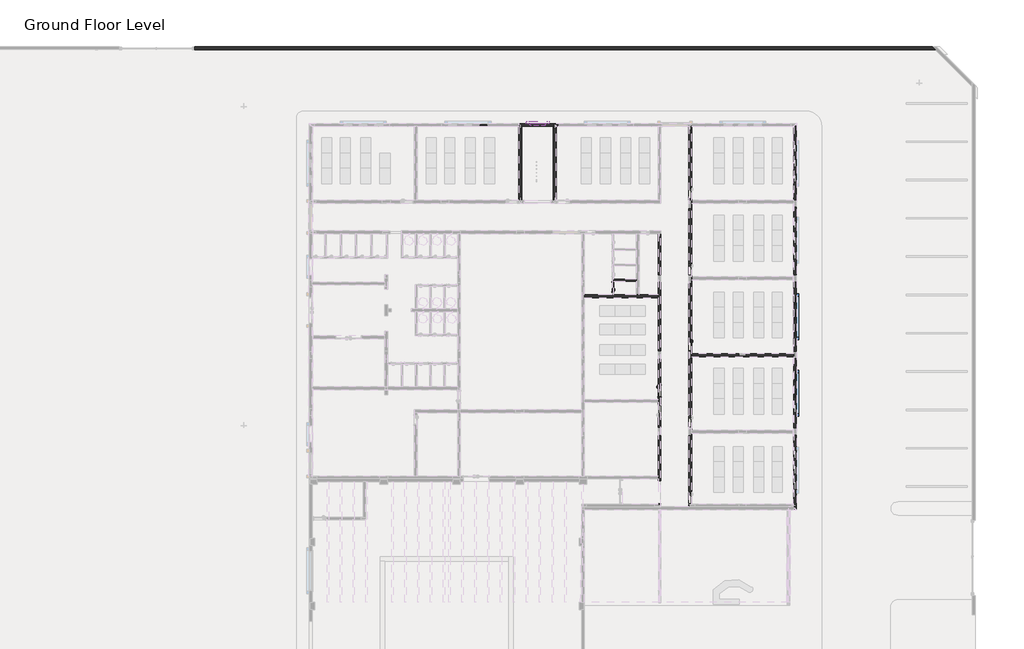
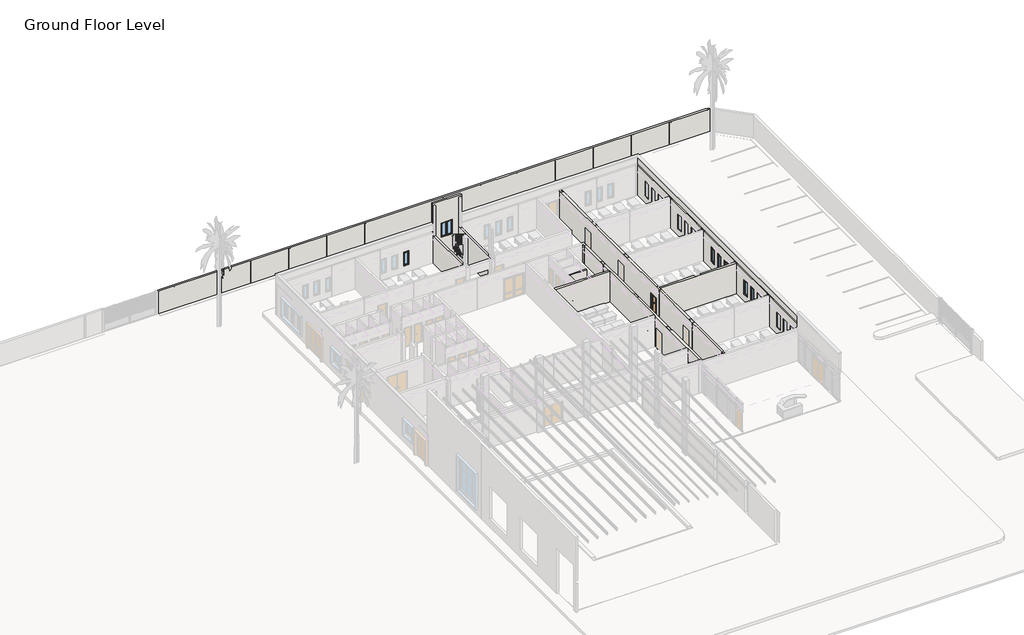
# One storey, part 9 of 23: 10 walls, 10 windows, 3 doors.
"""IFC4 building model written with IfcOpenShell, lengths in millimetres."""

from ifc_helpers import new_model, si_unit, frame, origin, place, context, project, spatial, polyline, outline, extrude, faceted_brep, transform, mapped, element, save
from components import int_single_flush_nz_700x_2100_e1d28701, int_single_flush_nz_900_x_2100_021ef152, int_single_flush_nz_900_x_2100_2a598139, awning_casement_double_w7_ecde4b56, window_batten_type_1_98129cd1, window_batten_type_1_65f01d97, window_single_shutter_w3_b236610e

model = new_model("IFC4")

# Units and contexts
model_context = context("Model", 3, world=origin())
ifc_project = project(units=[si_unit("LENGTHUNIT", "METRE", prefix="MILLI")], contexts=[model_context])

# Site, building, storey
site = spatial("IfcSite", under=ifc_project)
building = spatial("IfcBuilding", under=site)
storey = spatial("IfcBuildingStorey", under=building, Name="Ground Floor Level", Elevation=900.0)

# Doors
placement = place(None, origin())
int_single_flush_nz_700x_2100_shape = int_single_flush_nz_700x_2100_e1d28701(model_context)
element("IfcDoor", 1, ObjectType="Int Single-Flush (NZ) : 700x 2100", at=placement, inside=storey, context=model_context, shape_type="MappedRepresentation", body=[
    mapped(int_single_flush_nz_700x_2100_shape, transform((1702.7672395, 8941.2153534, 1000.0), x_axis=(0.0, 1.0, 0.0), y_axis=(-1.0, 0.0, 0.0), z_axis=(0.0, 0.0, 1.0))),
])
int_single_flush_nz_900_x_2100_shape = int_single_flush_nz_900_x_2100_021ef152(model_context)
element("IfcDoor", 2, ObjectType="Int Single-Flush (NZ) : 900 x 2100", at=placement, inside=storey, context=model_context, shape_type="MappedRepresentation", body=[
    mapped(int_single_flush_nz_900_x_2100_shape, transform((7752.7672395, 4239.2153534, 1000.0), x_axis=(0.0, -1.0, 0.0), y_axis=(1.0, 0.0, 0.0), z_axis=(0.0, 0.0, 1.0))),
])
int_single_flush_nz_900_x_2100_2_shape = int_single_flush_nz_900_x_2100_2a598139(model_context)
element("IfcDoor", 3, ObjectType="Int Single-Flush (NZ) : 900 x 2100", at=placement, inside=storey, context=model_context, shape_type="MappedRepresentation", body=[
    mapped(int_single_flush_nz_900_x_2100_2_shape, transform((5352.7672395, 649.2153534, 1000.0), x_axis=(0.0, -1.0, 0.0), y_axis=(1.0, 0.0, 0.0), z_axis=(0.0, 0.0, 1.0))),
])

# Walls
element("IfcWall", 4, ObjectType="Exterior - Blockwork 200 Stairs", at=placement, inside=storey, context=model_context, shape_type="Brep", body=[
    faceted_brep([(-5437.2327605, 21435.2153534, 4100.0), (-5437.2327605, 15655.2153534, 4100.0), (-5437.2327605, 15655.2153534, 1000.0), (-5437.2327605, 21435.2153534, 1000.0), (-5657.2327605, 15655.2153534, 4100.0), (-5657.2327605, 21435.2153534, 4100.0), (-5657.2327605, 21435.2153534, 1000.0), (-5657.2327605, 15655.2153534, 1000.0), (-5447.2327605, 15945.2153534, 900.0), (-5647.2327605, 15945.2153534, 900.0), (-5647.2327605, 21245.2153534, 900.0), (-5447.2327605, 21245.2153534, 900.0), (-5447.2327605, 21435.2153534, 4100.0), (-5447.2327605, 21245.2153534, 4100.0), (-5647.2327605, 21245.2153534, 4100.0), (-5647.2327605, 21435.2153534, 4100.0), (-5647.2327605, 15655.2153534, 4100.0), (-5647.2327605, 15945.2153534, 4100.0), (-5447.2327605, 15945.2153534, 4100.0), (-5447.2327605, 15655.2153534, 4100.0), (-5647.2327605, 15655.2153534, 1000.0), (-5647.2327605, 15945.2153534, 1000.0), (-5447.2327605, 15945.2153534, 1000.0), (-5447.2327605, 15655.2153534, 1000.0), (-5447.2327605, 21435.2153534, 1000.0), (-5447.2327605, 21245.2153534, 1000.0), (-5647.2327605, 21245.2153534, 1000.0), (-5647.2327605, 21435.2153534, 1000.0)], [[[0, 1, 2, 3]], [[4, 5, 6, 7]], [[8, 9, 10, 11]], [[1, 0, 12, 13, 14, 15, 5, 4, 16, 17, 18, 19]], [[20, 21, 17, 16]], [[9, 8, 22, 18, 17, 21]], [[19, 18, 22, 23]], [[13, 12, 24, 25]], [[11, 10, 26, 14, 13, 25]], [[26, 27, 15, 14]], [[27, 6, 5, 15]], [[12, 0, 3, 24]], [[16, 4, 7, 20]], [[1, 19, 23, 2]], [[26, 21, 20, 7, 6, 27]], [[21, 26, 10, 9]], [[22, 25, 24, 3, 2, 23]], [[25, 22, 8, 11]]]),
])
element("IfcWall", 5, ObjectType="Exterior - Blockwork 200 Stairs", at=placement, inside=storey, context=model_context, shape_type="Brep", body=[
    faceted_brep([(-2737.2327605, 15655.2153534, 900.0), (-2737.2327605, 21435.2153534, 900.0), (-2737.2327605, 21435.2153534, 4100.0), (-2737.2327605, 15655.2153534, 4100.0), (-2957.2327605, 21435.2153534, 900.0), (-2957.2327605, 15655.2153534, 900.0), (-2957.2327605, 15655.2153534, 4100.0), (-2957.2327605, 21435.2153534, 4100.0), (-2747.2327605, 15655.2153534, 900.0), (-2747.2327605, 15945.2153534, 900.0), (-2947.2327605, 15945.2153534, 900.0), (-2947.2327605, 15655.2153534, 900.0), (-2947.2327605, 21435.2153534, 900.0), (-2947.2327605, 21245.2153534, 900.0), (-2747.2327605, 21245.2153534, 900.0), (-2747.2327605, 21435.2153534, 900.0), (-2747.2327605, 21435.2153534, 4100.0), (-2747.2327605, 21245.2153534, 4100.0), (-2947.2327605, 21245.2153534, 4100.0), (-2947.2327605, 21435.2153534, 4100.0), (-2947.2327605, 15655.2153534, 4100.0), (-2947.2327605, 15945.2153534, 4100.0), (-2747.2327605, 15945.2153534, 4100.0), (-2747.2327605, 15655.2153534, 4100.0), (-2747.2327605, 21435.2153534, 1000.0), (-2947.2327605, 21435.2153534, 1000.0), (-2747.2327605, 15655.2153534, 1000.0), (-2947.2327605, 15655.2153534, 1000.0)], [[[0, 1, 2, 3]], [[4, 5, 6, 7]], [[1, 0, 8, 9, 10, 11, 5, 4, 12, 13, 14, 15]], [[3, 2, 16, 17, 18, 19, 7, 6, 20, 21, 22, 23]], [[2, 1, 15, 24, 16]], [[4, 7, 19, 25, 12]], [[0, 3, 23, 26, 8]], [[6, 5, 11, 27, 20]], [[10, 21, 20, 27, 11]], [[21, 10, 9, 22]], [[22, 9, 8, 26, 23]], [[14, 17, 16, 24, 15]], [[17, 14, 13, 18]], [[18, 13, 12, 25, 19]]]),
])
element("IfcWall", 6, ObjectType="Exterior - Blockwork 200mm", at=placement, inside=storey, context=model_context, shape_type="Brep", body=[
    faceted_brep([(15842.7672395, -8344.7846466, 5302.8002678), (15842.7672395, 21435.2153534, 5302.8002678), (15842.7672395, 21435.2153534, 4550.0), (15842.7672395, -8344.7846466, 4550.0), (15842.7672395, -8334.7846466, 4400.0), (15842.7672395, -8334.7846466, 900.0), (15842.7672395, -8344.7846466, 900.0), (15842.7672395, -8354.7846466, 900.0), (15842.7672395, -8354.7846466, 4400.0), (15842.7672395, -8344.7846466, 4400.0), (15842.7672395, -8134.7846466, 4400.0), (15842.7672395, -8124.7846466, 4400.0), (15842.7672395, -2564.7846466, 4400.0), (15842.7672395, -2344.7846466, 4400.0), (15842.7672395, 3425.2153534, 4400.0), (15842.7672395, 3645.2153534, 4400.0), (15842.7672395, 9435.2153534, 4400.0), (15842.7672395, 9655.2153534, 4400.0), (15842.7672395, 15435.2153534, 4400.0), (15842.7672395, 15655.2153534, 4400.0), (15842.7672395, 21435.2153534, 4400.0), (15842.7672395, 21435.2153534, 1000.0), (15842.7672395, 15655.2153534, 1000.0), (15842.7672395, 15655.2153534, 900.0), (15842.7672395, 15445.2153534, 900.0), (15842.7672395, 15445.2153534, 1000.0), (15842.7672395, 15435.2153534, 1000.0), (15842.7672395, 9655.2153534, 1000.0), (15842.7672395, 9655.2153534, 900.0), (15842.7672395, 9445.2153534, 900.0), (15842.7672395, 9445.2153534, 1000.0), (15842.7672395, 9435.2153534, 1000.0), (15842.7672395, 3645.2153534, 1000.0), (15842.7672395, 3645.2153534, 900.0), (15842.7672395, 3435.2153534, 900.0), (15842.7672395, 3435.2153534, 1000.0), (15842.7672395, 3425.2153534, 1000.0), (15842.7672395, -2344.7846466, 1000.0), (15842.7672395, -2344.7846466, 900.0), (15842.7672395, -2554.7846466, 900.0), (15842.7672395, -2554.7846466, 1000.0), (15842.7672395, -2564.7846466, 1000.0), (15842.7672395, -8124.7846466, 1000.0), (15842.7672395, -8134.7846466, 1000.0), (15842.7672395, 20035.2153534, 1800.0), (15842.7672395, 20035.2153534, 3400.0), (15842.7672395, 19435.2153534, 3400.0), (15842.7672395, 19435.2153534, 1800.0), (15842.7672395, 18855.2153534, 1800.0), (15842.7672395, 18855.2153534, 3400.0), (15842.7672395, 18255.2153534, 3400.0), (15842.7672395, 18255.2153534, 1800.0), (15842.7672395, 17655.2153534, 1800.0), (15842.7672395, 17655.2153534, 3400.0), (15842.7672395, 17055.2153534, 3400.0), (15842.7672395, 17055.2153534, 1800.0), (15842.7672395, 14055.2153534, 1800.0), (15842.7672395, 14055.2153534, 3400.0), (15842.7672395, 13455.2153534, 3400.0), (15842.7672395, 13455.2153534, 1800.0), (15842.7672395, 12835.2153534, 1800.0), (15842.7672395, 12835.2153534, 3400.0), (15842.7672395, 12235.2153534, 3400.0), (15842.7672395, 12235.2153534, 1800.0), (15842.7672395, 11635.2153534, 1800.0), (15842.7672395, 11635.2153534, 3400.0), (15842.7672395, 11035.2153534, 3400.0), (15842.7672395, 11035.2153534, 1800.0), (15842.7672395, 8035.2153534, 1800.0), (15842.7672395, 8035.2153534, 3400.0), (15842.7672395, 7435.2153534, 3400.0), (15842.7672395, 7435.2153534, 1800.0), (15842.7672395, 6855.2153534, 1800.0), (15842.7672395, 6855.2153534, 3400.0), (15842.7672395, 6255.2153534, 3400.0), (15842.7672395, 6255.2153534, 1800.0), (15842.7672395, 5635.2153534, 1800.0), (15842.7672395, 5635.2153534, 3400.0), (15842.7672395, 5035.2153534, 3400.0), (15842.7672395, 5035.2153534, 1800.0), (15842.7672395, 2045.2153534, 1800.0), (15842.7672395, 2045.2153534, 3400.0), (15842.7672395, 1445.2153534, 3400.0), (15842.7672395, 1445.2153534, 1800.0), (15842.7672395, 845.2153534, 1800.0), (15842.7672395, 845.2153534, 3400.0), (15842.7672395, 245.2153534, 3400.0), (15842.7672395, 245.2153534, 1800.0), (15842.7672395, -354.7846466, 1800.0), (15842.7672395, -354.7846466, 3400.0), (15842.7672395, -954.7846466, 3400.0), (15842.7672395, -954.7846466, 1800.0), (15842.7672395, -3944.7846466, 1800.0), (15842.7672395, -3944.7846466, 3400.0), (15842.7672395, -4544.7846466, 3400.0), (15842.7672395, -4544.7846466, 1800.0), (15842.7672395, -5144.7846466, 1800.0), (15842.7672395, -5144.7846466, 3400.0), (15842.7672395, -5744.7846466, 3400.0), (15842.7672395, -5744.7846466, 1800.0), (15842.7672395, -6364.7846466, 1800.0), (15842.7672395, -6364.7846466, 3400.0), (15842.7672395, -6964.7846466, 3400.0), (15842.7672395, -6964.7846466, 1800.0), (15842.7672395, -8564.7846466, 900.0), (15842.7672395, -8564.7846466, 4400.0), (15842.7672395, -8554.7846466, 4400.0), (15842.7672395, -8554.7846466, 900.0), (16062.7672395, -8564.7846466, 900.0), (16062.7672395, 21435.2153534, 900.0), (16062.7672395, 21435.2153534, 5302.8002678), (16062.7672395, -8344.7846466, 5302.8002678), (16062.7672395, -8344.7846466, 4400.0), (16062.7672395, -8564.7846466, 4400.0), (16062.7672395, 20035.2153534, 3400.0), (16062.7672395, 20035.2153534, 1800.0), (16062.7672395, 19435.2153534, 1800.0), (16062.7672395, 19435.2153534, 3400.0), (16062.7672395, 18855.2153534, 3400.0), (16062.7672395, 18855.2153534, 1800.0), (16062.7672395, 18255.2153534, 1800.0), (16062.7672395, 18255.2153534, 3400.0), (16062.7672395, 17655.2153534, 3400.0), (16062.7672395, 17655.2153534, 1800.0), (16062.7672395, 17055.2153534, 1800.0), (16062.7672395, 17055.2153534, 3400.0), (16062.7672395, 14055.2153534, 3400.0), (16062.7672395, 14055.2153534, 1800.0), (16062.7672395, 13455.2153534, 1800.0), (16062.7672395, 13455.2153534, 3400.0), (16062.7672395, 12835.2153534, 3400.0), (16062.7672395, 12835.2153534, 1800.0), (16062.7672395, 12235.2153534, 1800.0), (16062.7672395, 12235.2153534, 3400.0), (16062.7672395, 11635.2153534, 3400.0), (16062.7672395, 11635.2153534, 1800.0), (16062.7672395, 11035.2153534, 1800.0), (16062.7672395, 11035.2153534, 3400.0), (16062.7672395, 8035.2153534, 3400.0), (16062.7672395, 8035.2153534, 1800.0), (16062.7672395, 7435.2153534, 1800.0), (16062.7672395, 7435.2153534, 3400.0), (16062.7672395, 6855.2153534, 3400.0), (16062.7672395, 6855.2153534, 1800.0), (16062.7672395, 6255.2153534, 1800.0), (16062.7672395, 6255.2153534, 3400.0), (16062.7672395, 5635.2153534, 3400.0), (16062.7672395, 5635.2153534, 1800.0), (16062.7672395, 5035.2153534, 1800.0), (16062.7672395, 5035.2153534, 3400.0), (16062.7672395, 2045.2153534, 3400.0), (16062.7672395, 2045.2153534, 1800.0), (16062.7672395, 1445.2153534, 1800.0), (16062.7672395, 1445.2153534, 3400.0), (16062.7672395, 845.2153534, 3400.0), (16062.7672395, 845.2153534, 1800.0), (16062.7672395, 245.2153534, 1800.0), (16062.7672395, 245.2153534, 3400.0), (16062.7672395, -354.7846466, 3400.0), (16062.7672395, -354.7846466, 1800.0), (16062.7672395, -954.7846466, 1800.0), (16062.7672395, -954.7846466, 3400.0), (16062.7672395, -3944.7846466, 3400.0), (16062.7672395, -3944.7846466, 1800.0), (16062.7672395, -4544.7846466, 1800.0), (16062.7672395, -4544.7846466, 3400.0), (16062.7672395, -5144.7846466, 3400.0), (16062.7672395, -5144.7846466, 1800.0), (16062.7672395, -5744.7846466, 1800.0), (16062.7672395, -5744.7846466, 3400.0), (16062.7672395, -6364.7846466, 3400.0), (16062.7672395, -6364.7846466, 1800.0), (16062.7672395, -6964.7846466, 1800.0), (16062.7672395, -6964.7846466, 3400.0), (15852.7672395, 21435.2153534, 900.0), (15852.7672395, 21435.2153534, 1000.0), (16052.7672395, 21435.2153534, 4400.0), (16052.7672395, 21435.2153534, 4550.0), (16052.7672395, 15145.2153534, 900.0), (16052.7672395, 15145.2153534, 4400.0), (16052.7672395, 9795.2153534, 4400.0), (16052.7672395, 9795.2153534, 900.0), (16052.7672395, 9295.2153534, 900.0), (16052.7672395, 9295.2153534, 4400.0), (16052.7672395, 3795.2153534, 4400.0), (16052.7672395, 3795.2153534, 900.0), (16052.7672395, 3295.2153534, 900.0), (16052.7672395, 3295.2153534, 4400.0), (16052.7672395, -2204.7846466, 4400.0), (16052.7672395, -2204.7846466, 900.0), (16052.7672395, -2704.7846466, 900.0), (16052.7672395, -2704.7846466, 4400.0), (16052.7672395, -8134.7846466, 4400.0), (16052.7672395, -8134.7846466, 900.0), (16052.7672395, -8334.7846466, 900.0), (16052.7672395, -8334.7846466, 4400.0), (16052.7672395, -8344.7846466, 4400.0), (16052.7672395, -8344.7846466, 4550.0), (16052.7672395, 15645.2153534, 4400.0), (16052.7672395, 15645.2153534, 900.0), (15852.7672395, 15145.2153534, 900.0), (15852.7672395, 15145.2153534, 1000.0), (15852.7672395, 15145.2153534, 4400.0), (15852.7672395, 15645.2153534, 900.0), (15852.7672395, 15645.2153534, 4400.0), (15852.7672395, 15445.2153534, 1000.0), (15852.7672395, 15445.2153534, 900.0), (15852.7672395, 9295.2153534, 900.0), (15852.7672395, 9295.2153534, 1000.0), (15852.7672395, 9295.2153534, 4400.0), (15852.7672395, 9795.2153534, 4400.0), (15852.7672395, 9445.2153534, 1000.0), (15852.7672395, 9445.2153534, 900.0), (15852.7672395, 9655.2153534, 900.0), (15852.7672395, 9655.2153534, 1000.0), (15852.7672395, 9795.2153534, 1000.0), (15852.7672395, 9795.2153534, 900.0), (15852.7672395, 3795.2153534, 4400.0), (15852.7672395, 3295.2153534, 4400.0), (15852.7672395, 3295.2153534, 1000.0), (15852.7672395, 3435.2153534, 1000.0), (15852.7672395, 3435.2153534, 900.0), (15852.7672395, 3645.2153534, 900.0), (15852.7672395, 3645.2153534, 1000.0), (15852.7672395, 3795.2153534, 1000.0), (15852.7672395, 3795.2153534, 900.0), (15852.7672395, 3295.2153534, 900.0), (15852.7672395, -2204.7846466, 4400.0), (15852.7672395, -2704.7846466, 4400.0), (15852.7672395, -2704.7846466, 1000.0), (15852.7672395, -2554.7846466, 1000.0), (15852.7672395, -2554.7846466, 900.0), (15852.7672395, -2344.7846466, 900.0), (15852.7672395, -2344.7846466, 1000.0), (15852.7672395, -2204.7846466, 1000.0), (15852.7672395, -2204.7846466, 900.0), (15852.7672395, -2704.7846466, 900.0), (15852.7672395, -8134.7846466, 1000.0), (15852.7672395, -8134.7846466, 900.0), (16052.7672395, -8354.7846466, 900.0), (16052.7672395, -8354.7846466, 4400.0), (16052.7672395, -8554.7846466, 900.0), (16052.7672395, -8554.7846466, 4400.0), (15852.7672395, 15655.2153534, 1000.0), (15852.7672395, 15655.2153534, 900.0)], [[[0, 1, 2, 3]], [[4, 5, 6, 7, 8, 9]], [[10, 11, 12, 13, 14, 15, 16, 17, 18, 19, 20, 21, 22, 23, 24, 25, 26, 27, 28, 29, 30, 31, 32, 33, 34, 35, 36, 37, 38, 39, 40, 41, 42, 43], [44, 45, 46, 47], [48, 49, 50, 51], [52, 53, 54, 55], [56, 57, 58, 59], [60, 61, 62, 63], [64, 65, 66, 67], [68, 69, 70, 71], [72, 73, 74, 75], [76, 77, 78, 79], [80, 81, 82, 83], [84, 85, 86, 87], [88, 89, 90, 91], [92, 93, 94, 95], [96, 97, 98, 99], [100, 101, 102, 103]], [[104, 105, 106, 107]], [[108, 109, 110, 111, 112, 113], [114, 115, 116, 117], [118, 119, 120, 121], [122, 123, 124, 125], [126, 127, 128, 129], [130, 131, 132, 133], [134, 135, 136, 137], [138, 139, 140, 141], [142, 143, 144, 145], [146, 147, 148, 149], [150, 151, 152, 153], [154, 155, 156, 157], [158, 159, 160, 161], [162, 163, 164, 165], [166, 167, 168, 169], [170, 171, 172, 173]], [[110, 109, 174, 175, 21, 20, 176, 177, 2, 1]], [[178, 179, 180, 181, 182, 183, 184, 185, 186, 187, 188, 189, 190, 191, 192, 193, 194, 195, 196, 197, 177, 176, 198, 199]], [[179, 178, 200, 201, 202]], [[203, 204, 202, 201, 205, 206]], [[204, 203, 199, 198]], [[183, 182, 207, 208, 209]], [[210, 209, 208, 211, 212, 213, 214, 215]], [[181, 180, 210, 215, 216]], [[217, 218, 219, 220, 221, 222, 223, 224]], [[185, 184, 217, 224, 225]], [[187, 186, 226, 219, 218]], [[227, 228, 229, 230, 231, 232, 233, 234]], [[189, 188, 227, 234, 235]], [[191, 190, 236, 229, 228]], [[193, 192, 10, 43, 237, 238]], [[195, 194, 5, 4]], [[239, 240, 8, 7]], [[240, 239, 241, 242]], [[45, 44, 115, 114]], [[46, 45, 114, 117]], [[47, 46, 117, 116]], [[44, 47, 116, 115]], [[49, 48, 119, 118]], [[50, 49, 118, 121]], [[51, 50, 121, 120]], [[48, 51, 120, 119]], [[53, 52, 123, 122]], [[54, 53, 122, 125]], [[55, 54, 125, 124]], [[52, 55, 124, 123]], [[57, 56, 127, 126]], [[58, 57, 126, 129]], [[59, 58, 129, 128]], [[56, 59, 128, 127]], [[61, 60, 131, 130]], [[62, 61, 130, 133]], [[63, 62, 133, 132]], [[60, 63, 132, 131]], [[65, 64, 135, 134]], [[66, 65, 134, 137]], [[67, 66, 137, 136]], [[64, 67, 136, 135]], [[69, 68, 139, 138]], [[70, 69, 138, 141]], [[71, 70, 141, 140]], [[68, 71, 140, 139]], [[73, 72, 143, 142]], [[74, 73, 142, 145]], [[75, 74, 145, 144]], [[72, 75, 144, 143]], [[77, 76, 147, 146]], [[78, 77, 146, 149]], [[79, 78, 149, 148]], [[76, 79, 148, 147]], [[81, 80, 151, 150]], [[82, 81, 150, 153]], [[83, 82, 153, 152]], [[80, 83, 152, 151]], [[85, 84, 155, 154]], [[86, 85, 154, 157]], [[87, 86, 157, 156]], [[84, 87, 156, 155]], [[89, 88, 159, 158]], [[90, 89, 158, 161]], [[91, 90, 161, 160]], [[88, 91, 160, 159]], [[93, 92, 163, 162]], [[94, 93, 162, 165]], [[95, 94, 165, 164]], [[92, 95, 164, 163]], [[97, 96, 167, 166]], [[98, 97, 166, 169]], [[99, 98, 169, 168]], [[96, 99, 168, 167]], [[101, 100, 171, 170]], [[102, 101, 170, 173]], [[103, 102, 173, 172]], [[100, 103, 172, 171]], [[177, 197, 3, 2]], [[105, 104, 108, 113]], [[112, 111, 0, 3, 197, 196]], [[242, 241, 107, 106]], [[229, 237, 43, 42, 41, 40, 230]], [[230, 40, 39, 231]], [[237, 229, 236, 238]], [[219, 234, 233, 37, 36, 35, 220]], [[220, 35, 34, 221]], [[234, 219, 226, 235]], [[37, 233, 232, 38]], [[208, 224, 223, 32, 31, 30, 211]], [[211, 30, 29, 212]], [[224, 208, 207, 225]], [[32, 223, 222, 33]], [[201, 215, 214, 27, 26, 25, 205]], [[205, 25, 24, 206]], [[215, 201, 200, 216]], [[27, 214, 213, 28]], [[175, 243, 22, 21]], [[244, 243, 175, 174]], [[243, 244, 23, 22]], [[109, 108, 104, 107, 241, 239, 7, 6, 5, 194, 193, 238, 236, 190, 189, 235, 226, 186, 185, 225, 207, 182, 181, 216, 200, 178, 199, 203, 206, 24, 23, 244, 174]], [[39, 38, 232, 231]], [[34, 33, 222, 221]], [[29, 28, 213, 212]], [[1, 0, 111, 110]], [[180, 179, 202, 204, 198, 176, 20, 19, 18, 17, 16, 15, 14, 13, 12, 11, 10, 192, 191, 228, 227, 188, 187, 218, 217, 184, 183, 209, 210]], [[195, 4, 9, 8, 240, 242, 106, 105, 113, 112, 196]]]),
])
element("IfcWall", 7, ObjectType="Exterior - Blockwork 200mm", at=placement, inside=storey, context=model_context, shape_type="Brep", body=[
    faceted_brep([(-2637.2327605, 21435.2153534, 900.0), (-2637.2327605, 21435.2153534, 7598.0296693), (-5657.2327605, 21435.2153534, 7598.0296693), (-5657.2327605, 21435.2153534, 4400.0), (-5657.2327605, 21435.2153534, 4100.0), (-5657.2327605, 21435.2153534, 1000.0), (-5657.2327605, 21435.2153534, 900.0), (-5647.2327605, 21435.2153534, 900.0), (-5647.2327605, 21435.2153534, 1000.0), (-5647.2327605, 21435.2153534, 4100.0), (-5647.2327605, 21435.2153534, 7400.0), (-5447.2327605, 21435.2153534, 7400.0), (-5447.2327605, 21435.2153534, 4100.0), (-5447.2327605, 21435.2153534, 1000.0), (-5437.2327605, 21435.2153534, 1000.0), (-2947.2327605, 21435.2153534, 1000.0), (-2947.2327605, 21435.2153534, 4100.0), (-2947.2327605, 21435.2153534, 7400.0), (-2747.2327605, 21435.2153534, 7400.0), (-2747.2327605, 21435.2153534, 4100.0), (-2747.2327605, 21435.2153534, 1000.0), (-2737.2327605, 21435.2153534, 1000.0), (-2737.2327605, 21435.2153534, 900.0), (-4797.2327605, 21435.2153534, 3552.9147636), (-4797.2327605, 21435.2153534, 5152.9147636), (-3597.2327605, 21435.2153534, 5152.9147636), (-3597.2327605, 21435.2153534, 3552.9147636), (-2637.2327605, 21655.2153534, 900.0), (-5657.2327605, 21655.2153534, 900.0), (-5657.2327605, 21655.2153534, 7598.0296693), (-2637.2327605, 21655.2153534, 7598.0296693), (-4797.2327605, 21655.2153534, 5152.9147636), (-4797.2327605, 21655.2153534, 3552.9147636), (-3597.2327605, 21655.2153534, 3552.9147636), (-3597.2327605, 21655.2153534, 5152.9147636), (-2737.2327605, 21445.2153534, 900.0), (-2747.2327605, 21445.2153534, 900.0), (-2747.2327605, 21645.2153534, 900.0), (-2947.2327605, 21645.2153534, 900.0), (-2947.2327605, 21445.2153534, 900.0), (-5447.2327605, 21445.2153534, 900.0), (-5447.2327605, 21645.2153534, 900.0), (-5647.2327605, 21645.2153534, 900.0), (-5447.2327605, 21645.2153534, 7400.0), (-5447.2327605, 21445.2153534, 1000.0), (-5647.2327605, 21645.2153534, 7400.0), (-2947.2327605, 21645.2153534, 7400.0), (-2947.2327605, 21445.2153534, 1000.0), (-2747.2327605, 21645.2153534, 7400.0), (-2747.2327605, 21445.2153534, 1000.0), (-2737.2327605, 21445.2153534, 1000.0)], [[[0, 1, 2, 3, 4, 5, 6, 7, 8, 9, 10, 11, 12, 13, 14, 15, 16, 17, 18, 19, 20, 21, 22], [23, 24, 25, 26]], [[27, 28, 29, 30], [31, 32, 33, 34]], [[28, 27, 0, 22, 35, 36, 37, 38, 39, 40, 41, 42, 7, 6]], [[1, 0, 27, 30]], [[2, 1, 30, 29]], [[11, 43, 41, 40, 44, 13, 12]], [[43, 45, 42, 41]], [[45, 43, 11, 10]], [[38, 46, 17, 16, 15, 47, 39]], [[48, 46, 38, 37]], [[46, 48, 18, 17]], [[48, 37, 36, 49, 20, 19, 18]], [[45, 10, 9, 8, 7, 42]], [[24, 23, 32, 31]], [[25, 24, 31, 34]], [[26, 25, 34, 33]], [[23, 26, 33, 32]], [[44, 47, 15, 14, 13]], [[50, 21, 20, 49]], [[35, 50, 49, 36]], [[47, 44, 40, 39]], [[2, 29, 28, 6, 5, 4, 3]], [[50, 35, 22, 21]]]),
])
element("IfcWall", 8, ObjectType="Exterior - Blockwork 200mm", at=placement, inside=storey, context=model_context, shape_type="SweptSolid", body=[
    extrude(outline(polyline([(26941.6402558, 27445.2153534), (-31047.2327605, 27445.2153534), (-31047.2327605, 27665.2153534), (26721.6402558, 27665.2153534), (26941.6402558, 27445.2153534)])), frame((0.0, 0.0, 600.0), z_axis=(0.0, 0.0, 1.0), x_axis=(1.0, 0.0, 0.0)), (0.0, 0.0, 1.0), 2500.0),
])
element("IfcWall", 9, ObjectType="Interior - Blockwork 200", at=placement, inside=storey, context=model_context, shape_type="Brep", body=[
    faceted_brep([(5242.7672395, 13035.2153534, 4400.0), (5242.7672395, 13035.2153534, 900.0), (5242.7672395, 8255.2153534, 900.0), (5242.7672395, 8045.2153534, 900.0), (5242.7672395, 8045.2153534, 1000.0), (5242.7672395, 8035.2153534, 1000.0), (5242.7672395, 1193.2153534, 1000.0), (5242.7672395, 1193.2153534, 3119.0), (5242.7672395, 255.2153534, 3119.0), (5242.7672395, 255.2153534, 1000.0), (5242.7672395, 55.2153534, 1000.0), (5242.7672395, 45.2153534, 1000.0), (5242.7672395, 45.2153534, 900.0), (5242.7672395, -154.7846466, 900.0), (5242.7672395, -154.7846466, 1000.0), (5242.7672395, -164.7846466, 1000.0), (5242.7672395, -364.7846466, 1000.0), (5242.7672395, -364.7846466, 3119.0), (5242.7672395, -1302.7846466, 3119.0), (5242.7672395, -1302.7846466, 1000.0), (5242.7672395, -5944.7846466, 1000.0), (5242.7672395, -5954.7846466, 1000.0), (5242.7672395, -5954.7846466, 900.0), (5242.7672395, -6154.7846466, 900.0), (5242.7672395, -6154.7846466, 910.0), (5242.7672395, -6164.7846466, 910.0), (5242.7672395, -6289.7846466, 910.0), (5242.7672395, -6289.7846466, 3000.0), (5242.7672395, -8089.7846466, 3000.0), (5242.7672395, -8089.7846466, 910.0), (5242.7672395, -8134.7846466, 910.0), (5242.7672395, -8134.7846466, 4400.0), (5242.7672395, -6164.7846466, 4400.0), (5242.7672395, -5944.7846466, 4400.0), (5242.7672395, -164.7846466, 4400.0), (5242.7672395, 55.2153534, 4400.0), (5242.7672395, 8035.2153534, 4400.0), (5242.7672395, 8255.2153534, 4400.0), (5462.7672395, 13035.2153534, 4400.0), (5462.7672395, -8134.7846466, 4400.0), (5462.7672395, -8134.7846466, 1000.0), (5462.7672395, -8089.7846466, 1000.0), (5462.7672395, -8089.7846466, 3000.0), (5462.7672395, -6289.7846466, 3000.0), (5462.7672395, -6289.7846466, 1000.0), (5462.7672395, -1302.7846466, 1000.0), (5462.7672395, -1302.7846466, 3119.0), (5462.7672395, -364.7846466, 3119.0), (5462.7672395, -364.7846466, 1000.0), (5462.7672395, 255.2153534, 1000.0), (5462.7672395, 255.2153534, 3119.0), (5462.7672395, 1193.2153534, 3119.0), (5462.7672395, 1193.2153534, 1000.0), (5462.7672395, 13035.2153534, 1000.0), (5252.7672395, 12745.2153534, 900.0), (5452.7672395, 12745.2153534, 900.0), (5452.7672395, 9795.2153534, 900.0), (5252.7672395, 9795.2153534, 900.0), (5252.7672395, 9295.2153534, 900.0), (5452.7672395, 9295.2153534, 900.0), (5452.7672395, 3845.2153534, 900.0), (5252.7672395, 3845.2153534, 900.0), (5252.7672395, 8045.2153534, 900.0), (5252.7672395, 13035.2153534, 900.0), (5252.7672395, 3245.2153534, 900.0), (5452.7672395, 3245.2153534, 900.0), (5452.7672395, -2154.7846466, 900.0), (5252.7672395, -2154.7846466, 900.0), (5252.7672395, -154.7846466, 900.0), (5252.7672395, 45.2153534, 900.0), (5252.7672395, -2754.7846466, 900.0), (5452.7672395, -2754.7846466, 900.0), (5452.7672395, -6154.7846466, 900.0), (5252.7672395, -5954.7846466, 900.0), (5252.7672395, 13035.2153534, 4400.0), (5452.7672395, 13035.2153534, 4400.0), (5452.7672395, 13035.2153534, 1000.0), (5452.7672395, 12745.2153534, 4400.0), (5452.7672395, 12745.2153534, 1000.0), (5252.7672395, 12745.2153534, 4400.0), (5452.7672395, 9295.2153534, 4400.0), (5452.7672395, 9795.2153534, 4400.0), (5452.7672395, 9795.2153534, 1000.0), (5452.7672395, 9295.2153534, 1000.0), (5252.7672395, 9295.2153534, 4400.0), (5252.7672395, 9795.2153534, 4400.0), (5252.7672395, 3845.2153534, 4400.0), (5252.7672395, 3245.2153534, 4400.0), (5252.7672395, 3245.2153534, 1000.0), (5252.7672395, 3845.2153534, 1000.0), (5452.7672395, 3845.2153534, 1000.0), (5452.7672395, 3845.2153534, 4400.0), (5452.7672395, 3245.2153534, 4400.0), (5452.7672395, 3245.2153534, 1000.0), (5252.7672395, -2154.7846466, 4400.0), (5252.7672395, -2754.7846466, 4400.0), (5252.7672395, -2754.7846466, 1000.0), (5252.7672395, -2154.7846466, 1000.0), (5452.7672395, -2154.7846466, 1000.0), (5452.7672395, -2154.7846466, 4400.0), (5452.7672395, -2754.7846466, 4400.0), (5452.7672395, -2754.7846466, 1000.0), (5452.7672395, -8134.7846466, 4400.0), (5452.7672395, -1302.7846466, 1000.0), (5452.7672395, -6289.7846466, 1000.0), (5452.7672395, 1193.2153534, 1000.0), (5452.7672395, -8134.7846466, 1000.0), (5452.7672395, -8089.7846466, 1000.0), (5452.7672395, -364.7846466, 1000.0), (5452.7672395, 255.2153534, 1000.0), (5452.7672395, -6289.7846466, 910.0), (5452.7672395, -6154.7846466, 910.0), (5452.7672395, -8134.7846466, 910.0), (5452.7672395, -8089.7846466, 910.0), (5252.7672395, 8045.2153534, 1000.0), (5252.7672395, 1193.2153534, 1000.0), (5252.7672395, 45.2153534, 1000.0), (5252.7672395, 255.2153534, 1000.0), (5252.7672395, -154.7846466, 1000.0), (5252.7672395, -364.7846466, 1000.0), (5252.7672395, -5954.7846466, 1000.0), (5252.7672395, -1302.7846466, 1000.0)], [[[0, 1, 2, 3, 4, 5, 6, 7, 8, 9, 10, 11, 12, 13, 14, 15, 16, 17, 18, 19, 20, 21, 22, 23, 24, 25, 26, 27, 28, 29, 30, 31, 32, 33, 34, 35, 36, 37]], [[38, 39, 40, 41, 42, 43, 44, 45, 46, 47, 48, 49, 50, 51, 52, 53]], [[54, 55, 56, 57, 58, 59, 60, 61, 62, 3, 2, 1, 63]], [[64, 65, 66, 67, 68, 13, 12, 69]], [[70, 71, 72, 23, 22, 73]], [[1, 0, 74, 63]], [[75, 38, 53, 76]], [[77, 75, 76, 78]], [[54, 79, 77, 78, 55]], [[79, 54, 63, 74]], [[80, 81, 82, 83]], [[58, 84, 80, 83, 59]], [[84, 58, 57, 85]], [[85, 57, 56, 82, 81]], [[86, 87, 88, 89]], [[61, 60, 90, 91, 86, 89]], [[92, 91, 90, 93]], [[65, 64, 88, 87, 92, 93]], [[94, 95, 96, 97]], [[67, 66, 98, 99, 94, 97]], [[100, 99, 98, 101]], [[71, 70, 96, 95, 100, 101]], [[0, 37, 36, 35, 34, 33, 32, 31, 102, 39, 38, 75, 77, 79, 74], [95, 94, 99, 100], [87, 86, 91, 92], [81, 80, 84, 85]], [[101, 98, 103, 45, 44, 104]], [[82, 78, 76, 53, 52, 105, 93, 90, 83]], [[40, 106, 107, 41]], [[48, 108, 109, 49]], [[71, 101, 104, 110, 111, 72]], [[78, 82, 56, 55]], [[83, 90, 60, 59]], [[66, 65, 93, 105, 109, 108, 103, 98]], [[107, 106, 112, 113]], [[114, 89, 88, 115, 6, 5, 4]], [[116, 11, 10, 9, 117]], [[69, 116, 117, 115, 88, 64]], [[114, 62, 61, 89]], [[116, 69, 12, 11]], [[62, 114, 4, 3]], [[14, 118, 119, 16, 15]], [[96, 120, 21, 20, 19, 121, 97]], [[68, 118, 14, 13]], [[118, 68, 67, 97, 121, 119]], [[73, 120, 96, 70]], [[120, 73, 22, 21]], [[24, 111, 110, 26, 25]], [[30, 29, 113, 112]], [[111, 24, 23, 72]], [[39, 102, 31, 30, 112, 106, 40]], [[28, 42, 41, 107, 113, 29]], [[43, 27, 26, 110, 104, 44]], [[42, 28, 27, 43]], [[47, 17, 16, 119, 108, 48]], [[17, 47, 46, 18]], [[18, 46, 45, 103, 121, 19]], [[103, 108, 119, 121]], [[8, 50, 49, 109, 117, 9]], [[50, 8, 7, 51]], [[51, 7, 6, 115, 105, 52]], [[109, 105, 115, 117]]]),
])
element("IfcWall", 10, ObjectType="Interior - Blockwork 200", at=placement, inside=storey, context=model_context, shape_type="Brep", body=[
    faceted_brep([(5242.7672395, 8035.2153534, 4400.0), (-537.2327605, 8035.2153534, 4400.0), (-537.2327605, 8035.2153534, 1000.0), (5242.7672395, 8035.2153534, 1000.0), (5242.7672395, 8255.2153534, 4400.0), (5242.7672395, 8255.2153534, 900.0), (3762.7672395, 8255.2153534, 900.0), (3542.7672395, 8255.2153534, 900.0), (3542.7672395, 8255.2153534, 1000.0), (-537.2327605, 8255.2153534, 1000.0), (-537.2327605, 8255.2153534, 4400.0), (1642.7672395, 8255.2153534, 4400.0), (1762.7672395, 8255.2153534, 4400.0), (3542.7672395, 8255.2153534, 4400.0), (3762.7672395, 8255.2153534, 4400.0), (-537.2327605, 8245.2153534, 900.0), (3542.7672395, 8245.2153534, 900.0), (5242.7672395, 8045.2153534, 900.0), (-537.2327605, 8045.2153534, 900.0), (5242.7672395, 8045.2153534, 1000.0), (-537.2327605, 8245.2153534, 1000.0), (-537.2327605, 8045.2153534, 1000.0), (3542.7672395, 8245.2153534, 1000.0)], [[[0, 1, 2, 3]], [[4, 5, 6, 7, 8, 9, 10, 11, 12, 13, 14]], [[15, 16, 7, 6, 5, 17, 18]], [[5, 4, 0, 3, 19, 17]], [[1, 10, 9, 20, 15, 18, 21, 2]], [[1, 0, 4, 14, 13, 12, 11, 10]], [[22, 20, 9, 8]], [[22, 16, 15, 20]], [[21, 19, 3, 2]], [[19, 21, 18, 17]], [[16, 22, 8, 7]]]),
])
element("IfcWall", 11, ObjectType="Interior - Blockwork 200", at=placement, inside=storey, context=model_context, shape_type="Brep", body=[
    faceted_brep([(7642.7672395, -8344.7846466, 4400.0), (7642.7672395, 21435.2153534, 4400.0), (7642.7672395, 21435.2153534, 1000.0), (7642.7672395, 16693.2153534, 1000.0), (7642.7672395, 16693.2153534, 3119.0), (7642.7672395, 15755.2153534, 3119.0), (7642.7672395, 15755.2153534, 1000.0), (7642.7672395, 10693.2153534, 1000.0), (7642.7672395, 10693.2153534, 3119.0), (7642.7672395, 9755.2153534, 3119.0), (7642.7672395, 9755.2153534, 1000.0), (7642.7672395, 4783.2153534, 1000.0), (7642.7672395, 4783.2153534, 3119.0), (7642.7672395, 3845.2153534, 3119.0), (7642.7672395, 3845.2153534, 1000.0), (7642.7672395, -1206.7846466, 1000.0), (7642.7672395, -1206.7846466, 3119.0), (7642.7672395, -2144.7846466, 3119.0), (7642.7672395, -2144.7846466, 1000.0), (7642.7672395, -7186.7846466, 1000.0), (7642.7672395, -7186.7846466, 3119.0), (7642.7672395, -8124.7846466, 3119.0), (7642.7672395, -8124.7846466, 1000.0), (7642.7672395, -8344.7846466, 1000.0), (7862.7672395, -8334.7846466, 900.0), (7862.7672395, -8334.7846466, 4400.0), (7862.7672395, -8344.7846466, 4400.0), (7862.7672395, -8344.7846466, 900.0), (7862.7672395, -8134.7846466, 4400.0), (7862.7672395, -8134.7846466, 1000.0), (7862.7672395, -8124.7846466, 1000.0), (7862.7672395, -8124.7846466, 3119.0), (7862.7672395, -7186.7846466, 3119.0), (7862.7672395, -7186.7846466, 1000.0), (7862.7672395, -2564.7846466, 1000.0), (7862.7672395, -2554.7846466, 1000.0), (7862.7672395, -2554.7846466, 900.0), (7862.7672395, -2344.7846466, 900.0), (7862.7672395, -2344.7846466, 1000.0), (7862.7672395, -2144.7846466, 1000.0), (7862.7672395, -2144.7846466, 3119.0), (7862.7672395, -1206.7846466, 3119.0), (7862.7672395, -1206.7846466, 1000.0), (7862.7672395, 3425.2153534, 1000.0), (7862.7672395, 3435.2153534, 1000.0), (7862.7672395, 3435.2153534, 900.0), (7862.7672395, 3645.2153534, 900.0), (7862.7672395, 3645.2153534, 1000.0), (7862.7672395, 3845.2153534, 1000.0), (7862.7672395, 3845.2153534, 3119.0), (7862.7672395, 4783.2153534, 3119.0), (7862.7672395, 4783.2153534, 1000.0), (7862.7672395, 9435.2153534, 1000.0), (7862.7672395, 9445.2153534, 1000.0), (7862.7672395, 9445.2153534, 900.0), (7862.7672395, 9655.2153534, 900.0), (7862.7672395, 9655.2153534, 1000.0), (7862.7672395, 9755.2153534, 1000.0), (7862.7672395, 9755.2153534, 3119.0), (7862.7672395, 10693.2153534, 3119.0), (7862.7672395, 10693.2153534, 1000.0), (7862.7672395, 15435.2153534, 1000.0), (7862.7672395, 15445.2153534, 1000.0), (7862.7672395, 15445.2153534, 900.0), (7862.7672395, 15655.2153534, 900.0), (7862.7672395, 15655.2153534, 1000.0), (7862.7672395, 15755.2153534, 1000.0), (7862.7672395, 15755.2153534, 3119.0), (7862.7672395, 16693.2153534, 3119.0), (7862.7672395, 16693.2153534, 1000.0), (7862.7672395, 21435.2153534, 1000.0), (7862.7672395, 21435.2153534, 4400.0), (7862.7672395, 15655.2153534, 4400.0), (7862.7672395, 15435.2153534, 4400.0), (7862.7672395, 9655.2153534, 4400.0), (7862.7672395, 9435.2153534, 4400.0), (7862.7672395, 3645.2153534, 4400.0), (7862.7672395, 3425.2153534, 4400.0), (7862.7672395, -2344.7846466, 4400.0), (7862.7672395, -2564.7846466, 4400.0), (7862.7672395, -8124.7846466, 4400.0), (7652.7672395, 15045.2153534, 900.0), (7852.7672395, 15045.2153534, 900.0), (7852.7672395, 9745.2153534, 900.0), (7652.7672395, 9745.2153534, 900.0), (7852.7672395, 15645.2153534, 900.0), (7652.7672395, 15645.2153534, 900.0), (7652.7672395, 21145.2153534, 900.0), (7852.7672395, 21145.2153534, 900.0), (7852.7672395, 15655.2153534, 900.0), (7852.7672395, 15445.2153534, 900.0), (7652.7672395, 9145.2153534, 900.0), (7852.7672395, 9145.2153534, 900.0), (7852.7672395, 3845.2153534, 900.0), (7652.7672395, 3845.2153534, 900.0), (7652.7672395, 3245.2153534, 900.0), (7852.7672395, 3245.2153534, 900.0), (7852.7672395, -2154.7846466, 900.0), (7652.7672395, -2154.7846466, 900.0), (7652.7672395, -2754.7846466, 900.0), (7852.7672395, -2754.7846466, 900.0), (7852.7672395, -8134.7846466, 900.0), (7652.7672395, -8134.7846466, 900.0), (7652.7672395, -8334.7846466, 900.0), (7652.7672395, -8344.7846466, 900.0), (7852.7672395, -2554.7846466, 900.0), (7852.7672395, -2344.7846466, 900.0), (7852.7672395, 3435.2153534, 900.0), (7852.7672395, 3645.2153534, 900.0), (7852.7672395, 9445.2153534, 900.0), (7852.7672395, 9655.2153534, 900.0), (7652.7672395, 21435.2153534, 4400.0), (7652.7672395, 21435.2153534, 1000.0), (7852.7672395, 21435.2153534, 4400.0), (7852.7672395, 21435.2153534, 1000.0), (7852.7672395, 15645.2153534, 4400.0), (7852.7672395, 15445.2153534, 1000.0), (7852.7672395, 15045.2153534, 1000.0), (7852.7672395, 15045.2153534, 4400.0), (7652.7672395, 15045.2153534, 1000.0), (7652.7672395, 15045.2153534, 4400.0), (7652.7672395, 15645.2153534, 4400.0), (7652.7672395, 15645.2153534, 1000.0), (7852.7672395, 21145.2153534, 4400.0), (7852.7672395, 21145.2153534, 1000.0), (7652.7672395, 21145.2153534, 1000.0), (7652.7672395, 21145.2153534, 4400.0), (7652.7672395, 9745.2153534, 4400.0), (7652.7672395, 9145.2153534, 4400.0), (7652.7672395, 9145.2153534, 1000.0), (7652.7672395, 9745.2153534, 1000.0), (7852.7672395, 9745.2153534, 1000.0), (7852.7672395, 9745.2153534, 4400.0), (7852.7672395, 9145.2153534, 4400.0), (7852.7672395, 9655.2153534, 1000.0), (7852.7672395, 9445.2153534, 1000.0), (7852.7672395, 9145.2153534, 1000.0), (7652.7672395, 3845.2153534, 4400.0), (7652.7672395, 3245.2153534, 4400.0), (7652.7672395, 3245.2153534, 1000.0), (7652.7672395, 3845.2153534, 1000.0), (7652.7672395, 3845.2153534, 3119.0), (7852.7672395, 3845.2153534, 1000.0), (7652.7672395, 3845.2153534, 1000.0), (7852.7672395, 3845.2153534, 4400.0), (7852.7672395, 3845.2153534, 3119.0), (7852.7672395, 3245.2153534, 4400.0), (7852.7672395, 3845.2153534, 1000.0), (7852.7672395, 3645.2153534, 1000.0), (7852.7672395, 3435.2153534, 1000.0), (7852.7672395, 3245.2153534, 1000.0), (7652.7672395, -2154.7846466, 4400.0), (7652.7672395, -2754.7846466, 4400.0), (7652.7672395, -2754.7846466, 1000.0), (7652.7672395, -2154.7846466, 1000.0), (7852.7672395, -2154.7846466, 1000.0), (7852.7672395, -2154.7846466, 4400.0), (7852.7672395, -2754.7846466, 4400.0), (7852.7672395, -2344.7846466, 1000.0), (7852.7672395, -2554.7846466, 1000.0), (7852.7672395, -2754.7846466, 1000.0), (7652.7672395, -8134.7846466, 4400.0), (7652.7672395, -8134.7846466, 1000.0), (7852.7672395, -8134.7846466, 1000.0), (7652.7672395, -8334.7846466, 1000.0), (7652.7672395, -8334.7846466, 4400.0), (7652.7672395, -8344.7846466, 1000.0), (7852.7672395, -8124.7846466, 1000.0), (7852.7672395, -7186.7846466, 1000.0), (7852.7672395, -1206.7846466, 1000.0), (7852.7672395, -2144.7846466, 1000.0), (7852.7672395, 4783.2153534, 1000.0), (7852.7672395, 10693.2153534, 1000.0), (7852.7672395, 9755.2153534, 1000.0), (7852.7672395, 16693.2153534, 1000.0), (7852.7672395, 15655.2153534, 1000.0), (7852.7672395, 15755.2153534, 1000.0), (7652.7672395, 15755.2153534, 1000.0), (7652.7672395, 10693.2153534, 1000.0), (7652.7672395, 16693.2153534, 1000.0), (7652.7672395, 9755.2153534, 1000.0), (7652.7672395, 4783.2153534, 1000.0), (7652.7672395, -2144.7846466, 1000.0), (7652.7672395, -7186.7846466, 1000.0), (7652.7672395, -1206.7846466, 1000.0), (7652.7672395, -8124.7846466, 1000.0)], [[[0, 1, 2, 3, 4, 5, 6, 7, 8, 9, 10, 11, 12, 13, 14, 15, 16, 17, 18, 19, 20, 21, 22, 23]], [[24, 25, 26, 27]], [[28, 29, 30, 31, 32, 33, 34, 35, 36, 37, 38, 39, 40, 41, 42, 43, 44, 45, 46, 47, 48, 49, 50, 51, 52, 53, 54, 55, 56, 57, 58, 59, 60, 61, 62, 63, 64, 65, 66, 67, 68, 69, 70, 71, 72, 73, 74, 75, 76, 77, 78, 79, 80]], [[81, 82, 83, 84]], [[85, 86, 87, 88, 89, 64, 63, 90]], [[91, 92, 93, 94]], [[95, 96, 97, 98]], [[99, 100, 101, 102]], [[103, 24, 27, 104]], [[36, 105, 106, 37]], [[45, 107, 108, 46]], [[54, 109, 110, 55]], [[1, 111, 112, 2]], [[113, 71, 70, 114]], [[115, 85, 90, 116, 117, 118]], [[82, 81, 119, 120, 118, 117]], [[121, 120, 119, 122]], [[85, 115, 121, 122, 86]], [[123, 113, 114, 124]], [[88, 87, 125, 126, 123, 124]], [[111, 126, 125, 112]], [[127, 128, 129, 130]], [[84, 83, 131, 132, 127, 130]], [[133, 132, 131, 134, 110, 109, 135, 136]], [[92, 91, 129, 128, 133, 136]], [[137, 138, 139, 140, 141]], [[94, 93, 142, 143]], [[144, 137, 141, 145]], [[146, 144, 145, 147, 148, 108, 107, 149, 150]], [[96, 95, 139, 138, 146, 150]], [[151, 152, 153, 154]], [[98, 97, 155, 156, 151, 154]], [[157, 156, 155, 158, 106, 105, 159, 160]], [[100, 99, 153, 152, 157, 160]], [[28, 161, 162, 102, 101, 163, 29]], [[25, 24, 103, 164, 165]], [[161, 165, 164, 162]], [[27, 26, 0, 23, 166, 104]], [[1, 0, 26, 25, 165, 161, 28, 80, 79, 78, 77, 76, 75, 74, 73, 72, 71, 113, 123, 126, 111], [115, 118, 120, 121], [128, 127, 132, 133], [138, 137, 144, 146], [152, 151, 156, 157]], [[30, 29, 163, 167]], [[159, 35, 34, 33, 168, 160]], [[35, 159, 105, 36]], [[101, 100, 160, 168, 167, 163]], [[149, 44, 43, 42, 169, 150]], [[38, 158, 155, 170, 39]], [[44, 149, 107, 45]], [[158, 38, 37, 106]], [[97, 96, 150, 169, 170, 155]], [[135, 53, 52, 51, 171, 136]], [[47, 148, 147, 48]], [[53, 135, 109, 54]], [[148, 47, 46, 108]], [[93, 92, 136, 171, 142]], [[116, 62, 61, 60, 172, 117]], [[56, 134, 131, 173, 57]], [[62, 116, 90, 63]], [[134, 56, 55, 110]], [[83, 82, 117, 172, 173, 131]], [[70, 69, 174, 124, 114]], [[65, 175, 176, 66]], [[89, 175, 65, 64]], [[175, 89, 88, 124, 174, 176]], [[177, 122, 119, 178, 7, 6]], [[125, 179, 3, 2, 112]], [[180, 130, 129, 181, 11, 10]], [[182, 154, 153, 183, 19, 18]], [[139, 184, 15, 14, 140]], [[185, 162, 164, 166, 23, 22]], [[166, 164, 103, 104]], [[122, 177, 179, 125, 87, 86]], [[130, 180, 178, 119, 81, 84]], [[181, 129, 91, 94, 143]], [[154, 182, 184, 139, 95, 98]], [[162, 185, 183, 153, 99, 102]], [[6, 5, 67, 66, 176, 177]], [[4, 3, 179, 174, 69, 68]], [[176, 174, 179, 177]], [[10, 9, 58, 57, 173, 180]], [[8, 7, 178, 172, 60, 59]], [[173, 172, 178, 180]], [[14, 13, 141, 140]], [[49, 48, 147, 145]], [[12, 11, 181, 171, 51, 50]], [[143, 142, 171, 181]], [[18, 17, 40, 39, 170, 182]], [[16, 15, 184, 169, 42, 41]], [[170, 169, 184, 182]], [[22, 21, 31, 30, 167, 185]], [[20, 19, 183, 168, 33, 32]], [[167, 168, 183, 185]], [[4, 68, 67, 5]], [[8, 59, 58, 9]], [[12, 50, 49, 145, 141, 13]], [[16, 41, 40, 17]], [[20, 32, 31, 21]]]),
])
element("IfcWall", 12, ObjectType="Interior - Blockwork 200", at=placement, inside=storey, context=model_context, shape_type="Brep", body=[
    faceted_brep([(15842.7672395, 3645.2153534, 4400.0), (15842.7672395, 3645.2153534, 1000.0), (15842.7672395, 3645.2153534, 900.0), (12152.7672395, 3645.2153534, 900.0), (12152.7672395, 3645.2153534, 4400.0), (7862.7672395, 3645.2153534, 900.0), (7862.7672395, 3645.2153534, 1000.0), (7862.7672395, 3645.2153534, 4400.0), (11552.7672395, 3645.2153534, 4400.0), (11552.7672395, 3645.2153534, 900.0), (15842.7672395, 3425.2153534, 4400.0), (7862.7672395, 3425.2153534, 4400.0), (7862.7672395, 3425.2153534, 1000.0), (15842.7672395, 3425.2153534, 1000.0), (15842.7672395, 3435.2153534, 900.0), (7862.7672395, 3435.2153534, 900.0), (11552.7672395, 3445.2153534, 900.0), (12152.7672395, 3445.2153534, 900.0), (7862.7672395, 3435.2153534, 1000.0), (15842.7672395, 3435.2153534, 1000.0), (12152.7672395, 3445.2153534, 4400.0), (11552.7672395, 3445.2153534, 4400.0)], [[[0, 1, 2, 3, 4]], [[5, 6, 7, 8, 9]], [[10, 11, 12, 13]], [[3, 2, 14, 15, 5, 9, 16, 17]], [[7, 6, 5, 15, 18, 12, 11]], [[2, 1, 0, 10, 13, 19, 14]], [[17, 20, 4, 3]], [[20, 17, 16, 21]], [[21, 16, 9, 8]], [[7, 11, 10, 0, 4, 20, 21, 8]], [[18, 19, 13, 12]], [[19, 18, 15, 14]]]),
])
element("IfcWall", 13, ObjectType="Interior -Blockwork 100mm", at=placement, inside=storey, context=model_context, shape_type="SweptSolid", body=[
    extrude(outline(polyline([(3542.7672395, 9335.2153534), (1762.7672395, 9335.2153534), (1762.7672395, 9455.2153534), (3542.7672395, 9455.2153534), (3542.7672395, 9335.2153534)])), frame((0.0, 0.0, 900.0), z_axis=(0.0, 0.0, 1.0), x_axis=(1.0, 0.0, 0.0)), (0.0, 0.0, 1.0), 3500.0),
])

# Windows
awning_casement_double_w7_shape = awning_casement_double_w7_ecde4b56(model_context)
element("IfcWindow", 14, ObjectType="Awning Casement double : W7", at=placement, inside=storey, context=model_context, shape_type="MappedRepresentation", body=[
    mapped(awning_casement_double_w7_shape, transform((-4197.2327605, 21545.2153534, 2752.9147636), x_axis=(1.0, 0.0, 0.0), y_axis=(0.0, 1.0, 0.0), z_axis=(0.0, 0.0, 1.0))),
])
window_batten_type_1_shape = window_batten_type_1_98129cd1(model_context)
element("IfcWindow", 15, ObjectType="Window Batten : Type 1", at=placement, inside=storey, context=model_context, shape_type="MappedRepresentation", body=[
    mapped(window_batten_type_1_shape, transform((-4073.2317467, 21545.2153534, 2736.2741566), x_axis=(-1.0, 0.0, 0.0), y_axis=(0.0, -1.0, 0.0), z_axis=(0.0, 0.0, 1.0))),
])
window_batten_type_1_2_shape = window_batten_type_1_65f01d97(model_context)
element("IfcWindow", 16, ObjectType="Window Batten : Type 1", at=placement, inside=storey, context=model_context, shape_type="MappedRepresentation", body=[
    mapped(window_batten_type_1_2_shape, transform((15952.7672395, 411.3462452, 984.2726339), x_axis=(0.0, 1.0, 0.0), y_axis=(-1.0, 0.0, 0.0), z_axis=(0.0, 0.0, 1.0))),
])
element("IfcWindow", 17, ObjectType="Window Batten : Type 1", at=placement, inside=storey, context=model_context, shape_type="MappedRepresentation", body=[
    mapped(window_batten_type_1_2_shape, transform((15952.7672395, 6411.3462452, 984.2726339), x_axis=(0.0, 1.0, 0.0), y_axis=(-1.0, 0.0, 0.0), z_axis=(0.0, 0.0, 1.0))),
])
window_single_shutter_w3_shape = window_single_shutter_w3_b236610e(model_context)
element("IfcWindow", 18, ObjectType="Window- Single Shutter : W3", at=placement, inside=storey, context=model_context, shape_type="MappedRepresentation", body=[
    mapped(window_single_shutter_w3_shape, transform((-8437.2327605, 21540.2153534, 900.0), x_axis=(1.0, 0.0, 0.0), y_axis=(0.0, 1.0, 0.0), z_axis=(0.0, 0.0, 1.0))),
])
element("IfcWindow", 19, ObjectType="Window- Single Shutter : W3", at=placement, inside=storey, context=model_context, shape_type="MappedRepresentation", body=[
    mapped(window_single_shutter_w3_shape, transform((15947.7672395, 7735.2153534, 1000.0), x_axis=(0.0, -1.0, 0.0), y_axis=(1.0, 0.0, 0.0), z_axis=(0.0, 0.0, 1.0))),
])
element("IfcWindow", 20, ObjectType="Window- Single Shutter : W3", at=placement, inside=storey, context=model_context, shape_type="MappedRepresentation", body=[
    mapped(window_single_shutter_w3_shape, transform((15947.7672395, 6555.2153534, 1000.0), x_axis=(0.0, -1.0, 0.0), y_axis=(1.0, 0.0, 0.0), z_axis=(0.0, 0.0, 1.0))),
])
element("IfcWindow", 21, ObjectType="Window- Single Shutter : W3", at=placement, inside=storey, context=model_context, shape_type="MappedRepresentation", body=[
    mapped(window_single_shutter_w3_shape, transform((15947.7672395, 5335.2153534, 1000.0), x_axis=(0.0, -1.0, 0.0), y_axis=(1.0, 0.0, 0.0), z_axis=(0.0, 0.0, 1.0))),
])
element("IfcWindow", 22, ObjectType="Window- Single Shutter : W3", at=placement, inside=storey, context=model_context, shape_type="MappedRepresentation", body=[
    mapped(window_single_shutter_w3_shape, transform((15947.7672395, 1745.2153534, 1000.0), x_axis=(0.0, -1.0, 0.0), y_axis=(1.0, 0.0, 0.0), z_axis=(0.0, 0.0, 1.0))),
])
element("IfcWindow", 23, ObjectType="Window- Single Shutter : W3", at=placement, inside=storey, context=model_context, shape_type="MappedRepresentation", body=[
    mapped(window_single_shutter_w3_shape, transform((15947.7672395, 545.2153534, 1000.0), x_axis=(0.0, -1.0, 0.0), y_axis=(1.0, 0.0, 0.0), z_axis=(0.0, 0.0, 1.0))),
])

save(model, "model.ifc")
